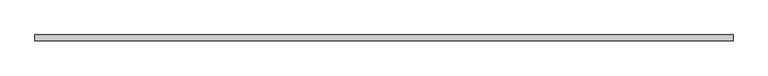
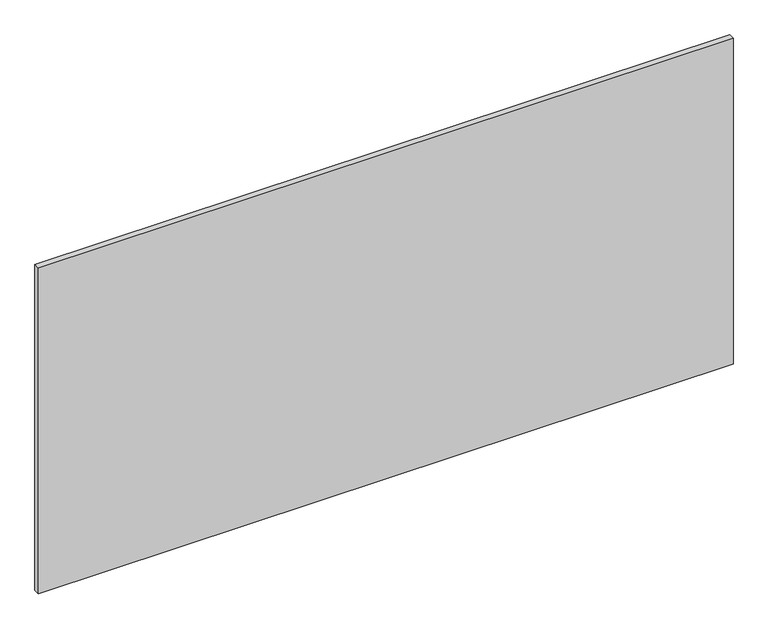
"""IFC4 building model written with IfcOpenShell, lengths in millimetres: plate geometry, Системная панель : С остеклением."""

from ifc_helpers import new_model, si_unit, origin, origin_with_axes, place, context, project, spatial, polyline, outline, extrude, source, transform, mapped, element, save


def plate_586e6761(model_context):
    return source(origin(), model_context, "Body", "SweptSolid", [
        extrude(outline(polyline([(1462.5, -49.5), (-1462.5, -49.5), (-1462.5, -24.5), (1462.5, -24.5), (1462.5, -49.5)])), origin_with_axes(), (0.0, 0.0, 1.0), 1450.0),
    ])


if __name__ == "__main__":
    model = new_model("IFC4")
    model_context = context("Model", 3, world=origin())
    ifc_project = project(units=[si_unit("LENGTHUNIT", "METRE", prefix="MILLI")], contexts=[model_context])
    site = spatial("IfcSite", under=ifc_project)
    building = spatial("IfcBuilding", under=site)
    placement = place(None, origin())
    plate_shape = plate_586e6761(model_context)
    element("IfcPlate", 1, ObjectType="Системная панель : С остеклением", at=placement, inside=building, context=model_context, shape_type="MappedRepresentation", body=[
        mapped(plate_shape, transform((0.0, 0.0, 0.0), x_axis=(1.0, 0.0, 0.0), y_axis=(0.0, 1.0, 0.0), z_axis=(0.0, 0.0, 1.0))),
    ])
    save(model, "model.ifc")
